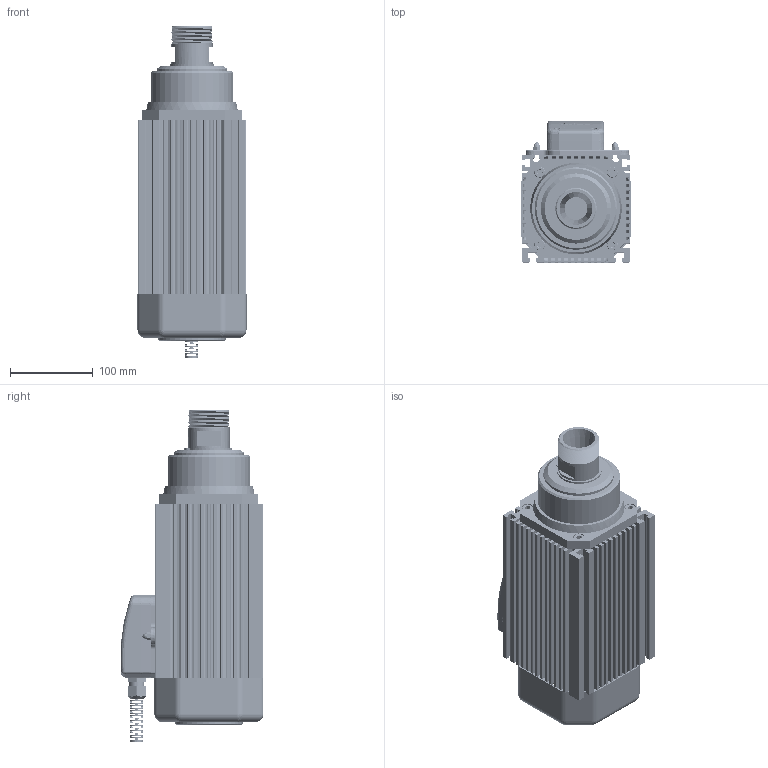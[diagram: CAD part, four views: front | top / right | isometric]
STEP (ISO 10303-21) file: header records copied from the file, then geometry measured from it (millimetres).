
FILE_DESCRIPTION (( 'STEP AP203' ), '1' );
FILE_NAME ('ARFM.4K-M ER 40.STEP', '2022-04-04T11:57:56', ( '' ), ( '' ), 'SwSTEP 2.0', 'SolidWorks 2014', '' );
FILE_SCHEMA (( 'CONFIG_CONTROL_DESIGN' ));
Length unit declared in the file: millimetre
Products named in the file (22): Yukseltme Parcasi; rekor3; Arfm.4K Rotor Mili ER 40; M5x10 inpus_91290A252; M8x20 inpus_96144A215; Somun M5 K顤; rekor1; Arfm.4T Takým Deðiþtirmeli Ön Kapak; Somun M5_90592A095; klemens kutusu montaj tabansýz; 471-50 Sekman_98541A167; Klemens Kutusu  alt tabansýz; Arfm.4K-M Gövdesi; ARFM.4K-M ER 40; M4x10 inpus_91290A176; rekor2; Arfm.4T Takým Deðiþtirmeli Ön Toz Kapak; no1 motor klemensi; 4K Klemens Kutusu Montaj; Arfm.4K Plastik Klemens Altlýk; Klemens Kutusu Kapaðý Kademeli; Arfm.4K Plastik Tas Kapak
Assembly tree (38 placements, depth 4):
  ARFM.4K-M ER 40
    Arfm.4K-M Gövdesi
    Arfm.4K Plastik Tas Kapak
    Arfm.4T Takým Deðiþtirmeli Ön Kapak
    Arfm.4T Takým Deðiþtirmeli Ön Toz Kapak
    Arfm.4K Rotor Mili ER 40
    471-50 Sekman_98541A167
    4K Klemens Kutusu Montaj
      Arfm.4K Plastik Klemens Altlýk
      Somun M5 K顤  x3
      M4x10 inpus_91290A176  x4
      Yukseltme Parcasi  x4
      Somun M5_90592A095  x6
      no1 motor klemensi
      M5x10 inpus_91290A252  x2
      klemens kutusu montaj tabansýz
        Klemens Kutusu  alt tabansýz
        Klemens Kutusu Kapaðý Kademeli
        rekor1
        rekor2
        rekor3
    M8x20 inpus_96144A215  x4
Bounding box: 132 x 172.94 x 402.01 mm (x, y, z)
Volume: 1662342.3 mm3; surface area: 671152.2 mm2
Topology: 54 solids, 54 shells, 3802 faces, 10301 edges, 6599 vertices
Faces by surface type: cylinder 1677, plane 1371, cone 542, bspline 137, torus 45, sphere 30
Entity records: 104503 total; most frequent: CARTESIAN_POINT 34619, ORIENTED_EDGE 14852, DIRECTION 13163, EDGE_CURVE 7426, VERTEX_POINT 4789, AXIS2_PLACEMENT_3D 4602, LINE 3959, VECTOR 3959
